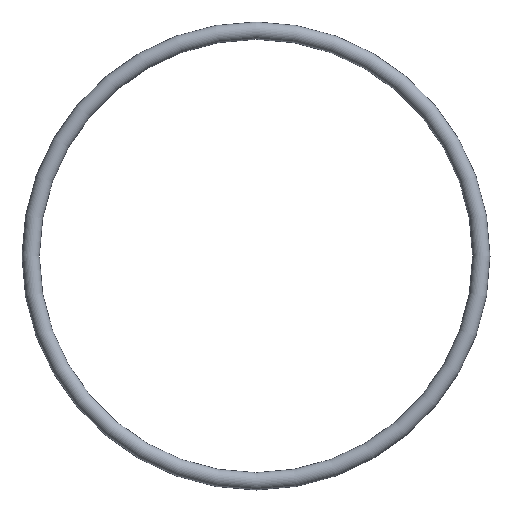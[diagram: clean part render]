
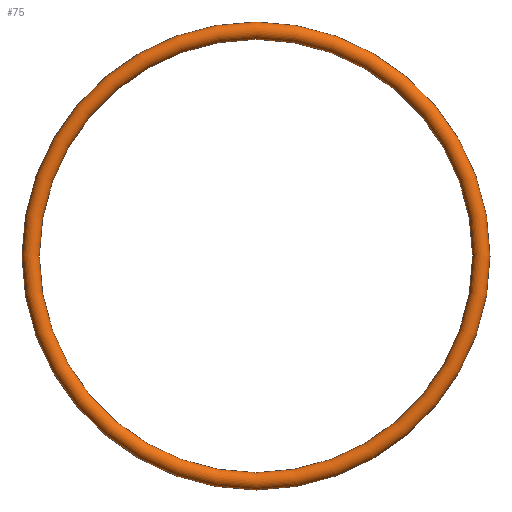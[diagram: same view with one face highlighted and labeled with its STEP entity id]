
A CAD part, front view. The second image highlights one B-rep face of the part: STEP entity #75.
In plain terms, the highlighted toroidal (fillet/blend) face has major radius 13 mm and minor radius 0.5 mm.
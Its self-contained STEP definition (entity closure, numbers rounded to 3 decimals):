
#75 = ADVANCED_FACE( '', ( #77 ), #78, .T. );
#77 = FACE_BOUND( '', #79, .T. );
#78 = TOROIDAL_SURFACE( '', #80, 13., 0.5 );
#79 = VERTEX_LOOP( '', #81 );
#80 = AXIS2_PLACEMENT_3D( '', #82, #83, #84 );
#81 = VERTEX_POINT( '', #85 );
#82 = CARTESIAN_POINT( '', ( 0., 0., 0. ) );
#83 = DIRECTION( '', ( 0., -1., 0. ) );
#84 = DIRECTION( '', ( 0., 0., -1. ) );
#85 = CARTESIAN_POINT( '', ( 0., 0., -13.5 ) );
